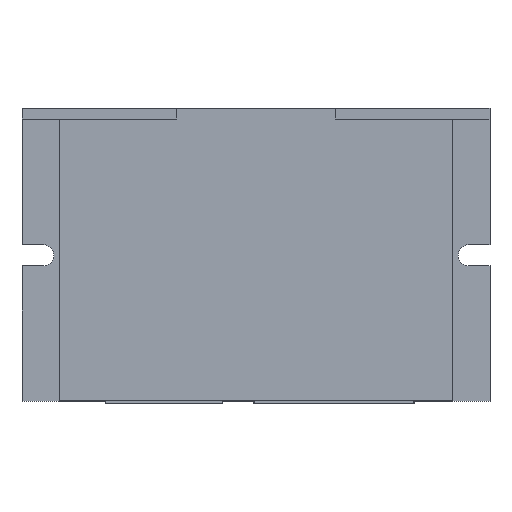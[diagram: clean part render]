
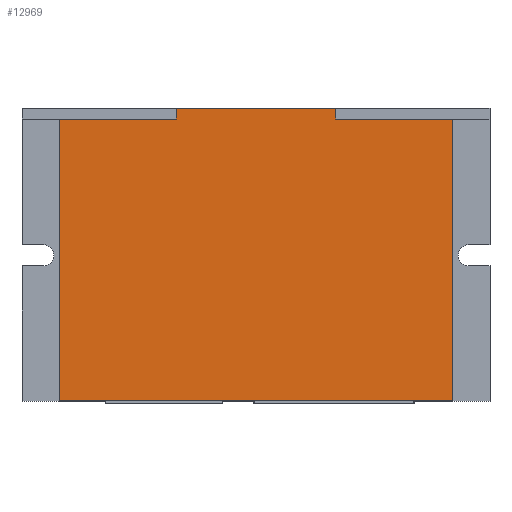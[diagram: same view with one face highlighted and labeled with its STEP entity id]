
A CAD part, top view. The second image highlights one B-rep face of the part: STEP entity #12969.
In plain terms, the highlighted planar face has unit normal (0, 0, 1).
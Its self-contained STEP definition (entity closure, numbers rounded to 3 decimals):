
#342=ORIENTED_EDGE('',*,*,#4023,.F.);
#343=ORIENTED_EDGE('',*,*,#3986,.F.);
#344=ORIENTED_EDGE('',*,*,#4024,.T.);
#345=ORIENTED_EDGE('',*,*,#4009,.T.);
#346=ORIENTED_EDGE('',*,*,#4025,.T.);
#347=ORIENTED_EDGE('',*,*,#4026,.T.);
#348=ORIENTED_EDGE('',*,*,#4027,.T.);
#349=ORIENTED_EDGE('',*,*,#4022,.T.);
#3986=EDGE_CURVE('',#5842,#5840,#7119,.T.);
#4009=EDGE_CURVE('',#5866,#5865,#7142,.T.);
#4022=EDGE_CURVE('',#5872,#5874,#7155,.T.);
#4023=EDGE_CURVE('',#5840,#5874,#7156,.T.);
#4024=EDGE_CURVE('',#5842,#5866,#7157,.T.);
#4025=EDGE_CURVE('',#5865,#5875,#7158,.T.);
#4026=EDGE_CURVE('',#5875,#5876,#7159,.T.);
#4027=EDGE_CURVE('',#5876,#5872,#7160,.T.);
#5840=VERTEX_POINT('',#22537);
#5842=VERTEX_POINT('',#22541);
#5865=VERTEX_POINT('',#22589);
#5866=VERTEX_POINT('',#22591);
#5872=VERTEX_POINT('',#22608);
#5874=VERTEX_POINT('',#22613);
#5875=VERTEX_POINT('',#22619);
#5876=VERTEX_POINT('',#22621);
#7119=LINE('',#22542,#8940);
#7142=LINE('',#22590,#8963);
#7155=LINE('',#22614,#8976);
#7156=LINE('',#22616,#8977);
#7157=LINE('',#22617,#8978);
#7158=LINE('',#22618,#8979);
#7159=LINE('',#22620,#8980);
#7160=LINE('',#22622,#8981);
#8940=VECTOR('',#19155,1000.);
#8963=VECTOR('',#19182,1000.);
#8976=VECTOR('',#19199,1000.);
#8977=VECTOR('',#19202,1000.);
#8978=VECTOR('',#19203,1000.);
#8979=VECTOR('',#19204,1000.);
#8980=VECTOR('',#19205,1000.);
#8981=VECTOR('',#19206,1000.);
#10723=EDGE_LOOP('',(#342,#343,#344,#345,#346,#347,#348,#349));
#11506=FACE_BOUND('',#10723,.T.);
#12282=PLANE('',#18268);
#12969=ADVANCED_FACE('',(#11506),#12282,.T.);
#18268=AXIS2_PLACEMENT_3D('',#22615,#19200,#19201);
#19155=DIRECTION('',(-1.,0.,0.));
#19182=DIRECTION('',(-1.,0.,0.));
#19199=DIRECTION('',(-1.,0.,0.));
#19200=DIRECTION('',(0.,0.,1.));
#19201=DIRECTION('',(0.,-1.,0.));
#19202=DIRECTION('',(0.,1.,0.));
#19203=DIRECTION('',(0.,1.,0.));
#19204=DIRECTION('',(0.,1.,0.));
#19205=DIRECTION('',(-1.,0.,0.));
#19206=DIRECTION('',(0.,-1.,0.));
#22537=CARTESIAN_POINT('',(0.,-53.,20.6));
#22541=CARTESIAN_POINT('',(74.,-53.,20.6));
#22542=CARTESIAN_POINT('',(74.,-53.,20.6));
#22589=CARTESIAN_POINT('',(52.,0.,20.6));
#22590=CARTESIAN_POINT('',(74.,0.,20.6));
#22591=CARTESIAN_POINT('',(74.,0.,20.6));
#22608=CARTESIAN_POINT('',(22.,0.,20.6));
#22613=CARTESIAN_POINT('',(0.,0.,20.6));
#22614=CARTESIAN_POINT('',(74.,0.,20.6));
#22615=CARTESIAN_POINT('',(74.,-53.,20.6));
#22616=CARTESIAN_POINT('',(0.,-53.,20.6));
#22617=CARTESIAN_POINT('',(74.,-53.,20.6));
#22618=CARTESIAN_POINT('',(52.,0.,20.6));
#22619=CARTESIAN_POINT('',(52.,2.,20.6));
#22620=CARTESIAN_POINT('',(52.,2.,20.6));
#22621=CARTESIAN_POINT('',(22.,2.,20.6));
#22622=CARTESIAN_POINT('',(22.,2.,20.6));
